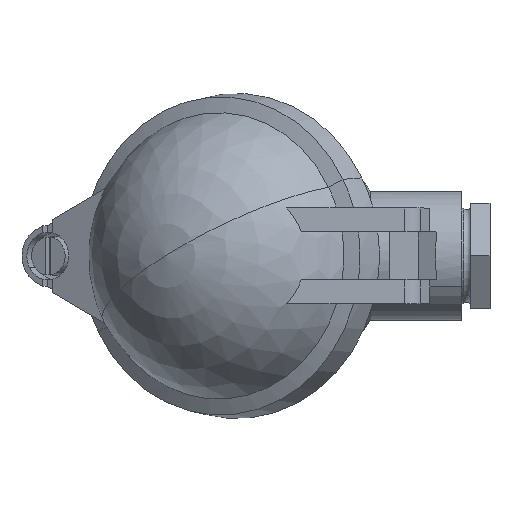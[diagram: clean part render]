
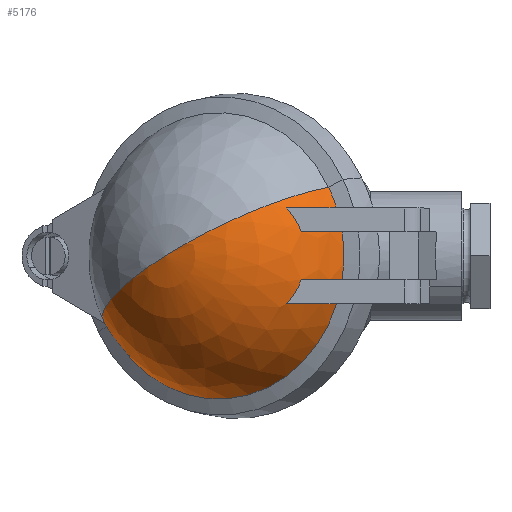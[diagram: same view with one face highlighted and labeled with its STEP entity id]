
A CAD part, top view. The second image highlights one B-rep face of the part: STEP entity #5176.
In plain terms, the highlighted spherical face has radius 31 mm.
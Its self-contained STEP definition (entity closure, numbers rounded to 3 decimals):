
#4516=CARTESIAN_POINT('Control Point',(-10.,-28.231,8.)) ;
#4517=CARTESIAN_POINT('Control Point',(-10.,-27.783,9.583)) ;
#4518=CARTESIAN_POINT('Control Point',(-10.,-27.223,11.134)) ;
#4519=CARTESIAN_POINT('Control Point',(-10.,-26.556,12.643)) ;
#4520=CARTESIAN_POINT('Control Point',(-10.,-25.376,14.873)) ;
#4521=CARTESIAN_POINT('Control Point',(-10.,-23.972,16.955)) ;
#4522=CARTESIAN_POINT('Control Point',(-10.,-23.459,17.658)) ;
#4523=CARTESIAN_POINT('Control Point',(-10.,-22.921,18.34)) ;
#4524=CARTESIAN_POINT('Control Point',(-10.,-22.361,19.)) ;
#4525=CARTESIAN_POINT('Vertex',(-10.,-28.231,8.)) ;
#4527=CARTESIAN_POINT('Vertex',(-10.,-22.361,19.)) ;
#4639=CARTESIAN_POINT('Vertex',(-5.,-25.071,17.534)) ;
#4673=CARTESIAN_POINT('Vertex',(-5.,-29.53,8.)) ;
#4677=CARTESIAN_POINT('Control Point',(-5.,-29.53,8.)) ;
#4678=CARTESIAN_POINT('Control Point',(-5.,-29.103,9.576)) ;
#4679=CARTESIAN_POINT('Control Point',(-5.,-28.571,11.124)) ;
#4680=CARTESIAN_POINT('Control Point',(-5.,-27.936,12.633)) ;
#4681=CARTESIAN_POINT('Control Point',(-5.,-26.985,14.529)) ;
#4682=CARTESIAN_POINT('Control Point',(-5.,-25.878,16.331)) ;
#4683=CARTESIAN_POINT('Control Point',(-5.,-25.617,16.737)) ;
#4684=CARTESIAN_POINT('Control Point',(-5.,-25.348,17.139)) ;
#4685=CARTESIAN_POINT('Control Point',(-5.,-25.071,17.534)) ;
#4748=CARTESIAN_POINT('Control Point',(5.,-29.53,8.)) ;
#4749=CARTESIAN_POINT('Control Point',(5.,-29.103,9.576)) ;
#4750=CARTESIAN_POINT('Control Point',(5.,-28.571,11.124)) ;
#4751=CARTESIAN_POINT('Control Point',(5.,-27.936,12.633)) ;
#4752=CARTESIAN_POINT('Control Point',(5.,-26.985,14.529)) ;
#4753=CARTESIAN_POINT('Control Point',(5.,-25.878,16.331)) ;
#4754=CARTESIAN_POINT('Control Point',(5.,-25.617,16.737)) ;
#4755=CARTESIAN_POINT('Control Point',(5.,-25.348,17.139)) ;
#4756=CARTESIAN_POINT('Control Point',(5.,-25.071,17.534)) ;
#4757=CARTESIAN_POINT('Vertex',(5.,-29.53,8.)) ;
#4759=CARTESIAN_POINT('Vertex',(5.,-25.071,17.534)) ;
#4859=CARTESIAN_POINT('Vertex',(10.,-22.361,19.)) ;
#4893=CARTESIAN_POINT('Vertex',(10.,-28.231,8.)) ;
#4897=CARTESIAN_POINT('Control Point',(10.,-28.231,8.)) ;
#4898=CARTESIAN_POINT('Control Point',(10.,-27.783,9.583)) ;
#4899=CARTESIAN_POINT('Control Point',(10.,-27.223,11.134)) ;
#4900=CARTESIAN_POINT('Control Point',(10.,-26.556,12.643)) ;
#4901=CARTESIAN_POINT('Control Point',(10.,-25.376,14.873)) ;
#4902=CARTESIAN_POINT('Control Point',(10.,-23.972,16.955)) ;
#4903=CARTESIAN_POINT('Control Point',(10.,-23.459,17.658)) ;
#4904=CARTESIAN_POINT('Control Point',(10.,-22.921,18.34)) ;
#4905=CARTESIAN_POINT('Control Point',(10.,-22.361,19.)) ;
#5052=CARTESIAN_POINT('Control Point',(-10.,-22.361,19.)) ;
#5053=CARTESIAN_POINT('Control Point',(-9.143,-23.07,18.616)) ;
#5054=CARTESIAN_POINT('Control Point',(-8.202,-23.705,18.273)) ;
#5055=CARTESIAN_POINT('Control Point',(-7.189,-24.256,17.975)) ;
#5056=CARTESIAN_POINT('Control Point',(-6.116,-24.713,17.728)) ;
#5057=CARTESIAN_POINT('Control Point',(-5.,-25.071,17.534)) ;
#5083=CARTESIAN_POINT('Axis2P3D Location',(0.,0.,8.)) ;
#5087=CARTESIAN_POINT('Vertex',(-14.359,26.284,8.)) ;
#5102=CARTESIAN_POINT('Axis2P3D Location',(0.,0.,0.)) ;
#5107=CARTESIAN_POINT('Axis2P3D Location',(0.,0.,0.)) ;
#5111=CARTESIAN_POINT('Vertex',(-13.703,25.084,12.001)) ;
#5114=CARTESIAN_POINT('Axis2P3D Location',(0.,0.,8.)) ;
#5120=CARTESIAN_POINT('Control Point',(10.,-22.361,19.)) ;
#5121=CARTESIAN_POINT('Control Point',(8.929,-23.247,18.521)) ;
#5122=CARTESIAN_POINT('Control Point',(7.718,-24.011,18.108)) ;
#5123=CARTESIAN_POINT('Control Point',(6.395,-24.624,17.776)) ;
#5124=CARTESIAN_POINT('Control Point',(5.,-25.071,17.534)) ;
#5126=CARTESIAN_POINT('Axis2P3D Location',(0.,0.,8.)) ;
#5130=CARTESIAN_POINT('Vertex',(14.359,-26.284,8.)) ;
#5133=CARTESIAN_POINT('Axis2P3D Location',(0.,0.,0.)) ;
#5137=CARTESIAN_POINT('Vertex',(0.,0.,31.)) ;
#5140=CARTESIAN_POINT('Axis2P3D Location',(0.,0.,0.)) ;
#5144=CARTESIAN_POINT('Vertex',(-13.492,24.697,13.)) ;
#5147=CARTESIAN_POINT('Axis2P3D Location',(0.,0.,13.)) ;
#5151=CARTESIAN_POINT('Vertex',(-14.075,24.37,13.)) ;
#5155=CARTESIAN_POINT('Control Point',(-14.075,24.37,13.)) ;
#5156=CARTESIAN_POINT('Control Point',(-13.946,24.617,12.677)) ;
#5157=CARTESIAN_POINT('Control Point',(-13.822,24.855,12.344)) ;
#5158=CARTESIAN_POINT('Control Point',(-13.703,25.084,12.001)) ;
#5084=DIRECTION('Axis2P3D Direction',(0.,0.,-1.)) ;
#5103=DIRECTION('Axis2P3D Direction',(0.,0.,1.)) ;
#5104=DIRECTION('Axis2P3D XDirection',(-0.479,0.878,0.)) ;
#5108=DIRECTION('Axis2P3D Direction',(0.878,0.479,-0.)) ;
#5115=DIRECTION('Axis2P3D Direction',(0.,0.,1.)) ;
#5127=DIRECTION('Axis2P3D Direction',(0.,0.,1.)) ;
#5134=DIRECTION('Axis2P3D Direction',(-0.878,-0.479,0.)) ;
#5141=DIRECTION('Axis2P3D Direction',(0.878,0.479,-0.)) ;
#5148=DIRECTION('Axis2P3D Direction',(0.,0.,1.)) ;
#5085=AXIS2_PLACEMENT_3D('Circle Axis2P3D',#5083,#5084,$) ;
#5105=AXIS2_PLACEMENT_3D('Sphere Axis2P3D',#5102,#5103,#5104) ;
#5109=AXIS2_PLACEMENT_3D('Circle Axis2P3D',#5107,#5108,$) ;
#5116=AXIS2_PLACEMENT_3D('Circle Axis2P3D',#5114,#5115,$) ;
#5128=AXIS2_PLACEMENT_3D('Circle Axis2P3D',#5126,#5127,$) ;
#5135=AXIS2_PLACEMENT_3D('Circle Axis2P3D',#5133,#5134,$) ;
#5142=AXIS2_PLACEMENT_3D('Circle Axis2P3D',#5140,#5141,$) ;
#5149=AXIS2_PLACEMENT_3D('Circle Axis2P3D',#5147,#5148,$) ;
#5161=ORIENTED_EDGE('',*,*,#5113,.F.) ;
#5162=ORIENTED_EDGE('',*,*,#5089,.T.) ;
#5163=ORIENTED_EDGE('',*,*,#4529,.T.) ;
#5164=ORIENTED_EDGE('',*,*,#5058,.T.) ;
#5165=ORIENTED_EDGE('',*,*,#4686,.F.) ;
#5166=ORIENTED_EDGE('',*,*,#5118,.T.) ;
#5167=ORIENTED_EDGE('',*,*,#4761,.T.) ;
#5168=ORIENTED_EDGE('',*,*,#5125,.F.) ;
#5169=ORIENTED_EDGE('',*,*,#4906,.F.) ;
#5170=ORIENTED_EDGE('',*,*,#5132,.T.) ;
#5171=ORIENTED_EDGE('',*,*,#5139,.T.) ;
#5172=ORIENTED_EDGE('',*,*,#5146,.F.) ;
#5173=ORIENTED_EDGE('',*,*,#5153,.T.) ;
#5174=ORIENTED_EDGE('',*,*,#5159,.T.) ;
#5176=ADVANCED_FACE('Hauptk\X2\00F6\X0\rper',(#5175),#5106,.T.) ;
#4515=B_SPLINE_CURVE_WITH_KNOTS('',5,(#4516,#4517,#4518,#4519,#4520,#4521,#4522,#4523,#4524),.UNSPECIFIED.,.F.,.U.,(6,3,6),(0.,11.634,17.819),.UNSPECIFIED.) ;
#4676=B_SPLINE_CURVE_WITH_KNOTS('',5,(#4677,#4678,#4679,#4680,#4681,#4682,#4683,#4684,#4685),.UNSPECIFIED.,.F.,.U.,(6,3,6),(0.,11.547,14.966),.UNSPECIFIED.) ;
#4747=B_SPLINE_CURVE_WITH_KNOTS('',5,(#4748,#4749,#4750,#4751,#4752,#4753,#4754,#4755,#4756),.UNSPECIFIED.,.F.,.U.,(6,3,6),(0.,11.547,14.966),.UNSPECIFIED.) ;
#4896=B_SPLINE_CURVE_WITH_KNOTS('',5,(#4897,#4898,#4899,#4900,#4901,#4902,#4903,#4904,#4905),.UNSPECIFIED.,.F.,.U.,(6,3,6),(0.,11.634,17.819),.UNSPECIFIED.) ;
#5051=B_SPLINE_CURVE_WITH_KNOTS('',5,(#5052,#5053,#5054,#5055,#5056,#5057),.UNSPECIFIED.,.F.,.U.,(6,6),(0.,9.3),.UNSPECIFIED.) ;
#5119=B_SPLINE_CURVE_WITH_KNOTS('',4,(#5120,#5121,#5122,#5123,#5124),.UNSPECIFIED.,.F.,.U.,(5,5),(0.,9.3),.UNSPECIFIED.) ;
#5154=B_SPLINE_CURVE_WITH_KNOTS('',3,(#5155,#5156,#5157,#5158),.UNSPECIFIED.,.F.,.U.,(4,4),(0.,2.261),.UNSPECIFIED.) ;
#5086=CIRCLE('generated circle',#5085,29.95) ;
#5110=CIRCLE('generated circle',#5109,31.) ;
#5117=CIRCLE('generated circle',#5116,29.95) ;
#5129=CIRCLE('generated circle',#5128,29.95) ;
#5136=CIRCLE('generated circle',#5135,31.) ;
#5143=CIRCLE('generated circle',#5142,31.) ;
#5150=CIRCLE('generated circle',#5149,28.142) ;
#4529=EDGE_CURVE('',#4526,#4528,#4515,.T.) ;
#4686=EDGE_CURVE('',#4674,#4640,#4676,.T.) ;
#4761=EDGE_CURVE('',#4758,#4760,#4747,.T.) ;
#4906=EDGE_CURVE('',#4894,#4860,#4896,.T.) ;
#5058=EDGE_CURVE('',#4528,#4640,#5051,.T.) ;
#5089=EDGE_CURVE('',#5088,#4526,#5086,.F.) ;
#5113=EDGE_CURVE('',#5088,#5112,#5110,.T.) ;
#5118=EDGE_CURVE('',#4674,#4758,#5117,.T.) ;
#5125=EDGE_CURVE('',#4860,#4760,#5119,.T.) ;
#5132=EDGE_CURVE('',#4894,#5131,#5129,.T.) ;
#5139=EDGE_CURVE('',#5131,#5138,#5136,.T.) ;
#5146=EDGE_CURVE('',#5145,#5138,#5143,.T.) ;
#5153=EDGE_CURVE('',#5145,#5152,#5150,.T.) ;
#5159=EDGE_CURVE('',#5152,#5112,#5154,.T.) ;
#5160=EDGE_LOOP('',(#5161,#5162,#5163,#5164,#5165,#5166,#5167,#5168,#5169,#5170,#5171,#5172,#5173,#5174)) ;
#5175=FACE_OUTER_BOUND('',#5160,.T.) ;
#5106=SPHERICAL_SURFACE('',#5105,31.) ;
#4526=VERTEX_POINT('',#4525) ;
#4528=VERTEX_POINT('',#4527) ;
#4640=VERTEX_POINT('',#4639) ;
#4674=VERTEX_POINT('',#4673) ;
#4758=VERTEX_POINT('',#4757) ;
#4760=VERTEX_POINT('',#4759) ;
#4860=VERTEX_POINT('',#4859) ;
#4894=VERTEX_POINT('',#4893) ;
#5088=VERTEX_POINT('',#5087) ;
#5112=VERTEX_POINT('',#5111) ;
#5131=VERTEX_POINT('',#5130) ;
#5138=VERTEX_POINT('',#5137) ;
#5145=VERTEX_POINT('',#5144) ;
#5152=VERTEX_POINT('',#5151) ;
